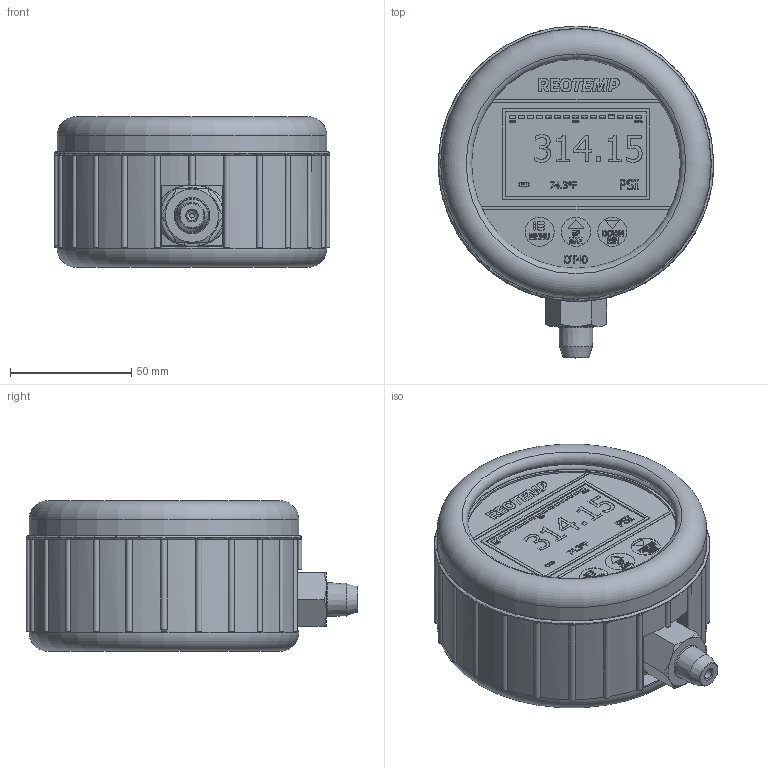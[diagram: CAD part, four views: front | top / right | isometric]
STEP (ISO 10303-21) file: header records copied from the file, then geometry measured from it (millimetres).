
FILE_DESCRIPTION(/* description */ (''),/* implementation_level */ '2;1');
FILE_NAME(/* name */ 'C:\Work\Designs\DT40 W RUBBER BOOT.stp',/* time_stamp */ '2023-06-19T13:36:10-05:00',/* author */ ('Sam'),/* organization */ (''),/* preprocessor_version */ 'ST-DEVELOPER v18.1',/* originating_system */ 'Autodesk Inventor 2022',/* authorisation */ '');
FILE_SCHEMA (('AUTOMOTIVE_DESIGN { 1 0 10303 214 3 1 1 }'));
Length unit declared in the file: inch
Products named in the file (3): 21031 DT40 W RUBBER BOOT; Digital Test Guage DT40 Series; green boot 2
Assembly tree (2 placements, depth 2):
  21031 DT40 W RUBBER BOOT
    Digital Test Guage DT40 Series
    green boot 2
Bounding box: 113.69 x 136.85 x 62.11 mm (x, y, z)
Volume: 513597.2 mm3; surface area: 87595.3 mm2
Topology: 2 solids, 6 shells, 1223 faces, 3108 edges, 2034 vertices
Faces by surface type: plane 800, bspline 301, cylinder 71, cone 25, torus 25, sphere 1
Full cylindrical faces by diameter (mm): 1 x3, 2 x1, 4.2 x1, 4.7 x1, 12 x3, 20 x2, 87.6 x1, 91.338 x1, 91.8 x1, 98.076 x1, 98.8 x1, 100.8 x1, 111.15 x2
Entity records: 44129 total; most frequent: CARTESIAN_POINT 16058, ORIENTED_EDGE 6212, DIRECTION 4700, EDGE_CURVE 3106, LINE 2082, VECTOR 2082, VERTEX_POINT 2034, EDGE_LOOP 1366
